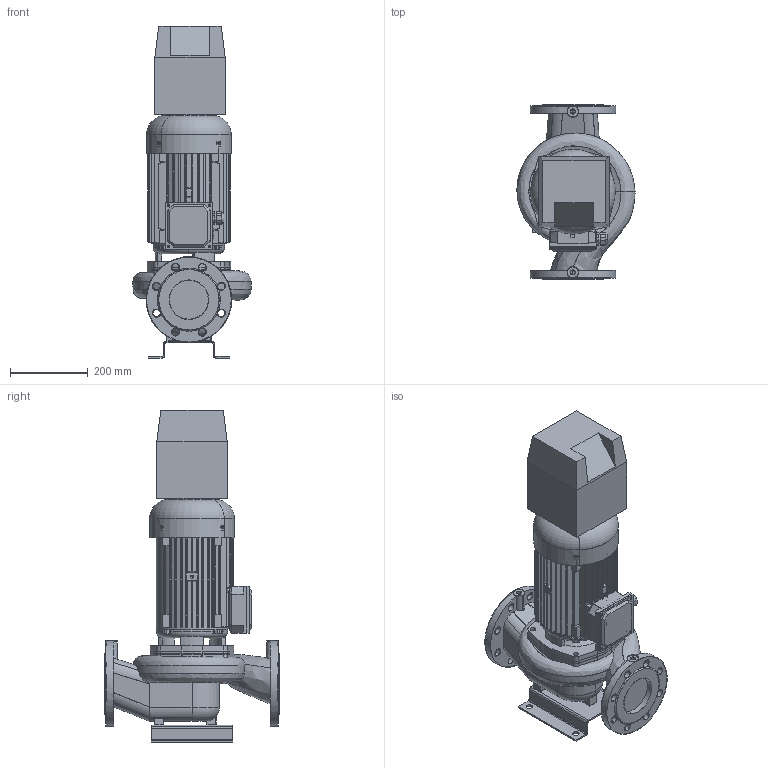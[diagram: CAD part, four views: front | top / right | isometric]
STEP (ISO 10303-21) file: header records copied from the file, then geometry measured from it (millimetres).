
FILE_DESCRIPTION(('STEP AP214'),'1');
FILE_NAME('export.stp','2018-08-08T12:08:02',(' '),(' '),'Spatial InterOp 3D',' ',' ');
FILE_SCHEMA(('AUTOMOTIVE_DESIGN { 1 0 10303 214 1 1 1 1 }'));
Length unit declared in the file: millimetre
Products named in the file (16): 440017; 440016; V_MKP112F19; 440015___; 440018; 440021; 480022; 480020; 480023; M25_Blind_Plug; M25_tiivisteholkk; W_AL11022NC400KP; V_TLL65AB80A1102; V_PPAL1102; V_JALKA35973; NC_Size1
Assembly tree (15 placements, depth 4):
  W_AL11022NC400KP
    V_MKP112F19
      440017
        440016
      440015___
      440018
      440021
      480022
      480020
      480023
      M25_Blind_Plug
      M25_tiivisteholkk
    V_TLL65AB80A1102
    V_PPAL1102
    V_JALKA35973
    NC_Size1
Bounding box: 304.08 x 450 x 854.2 mm (x, y, z)
Volume: 10404722 mm3; surface area: 2541985.1 mm2
Topology: 13 solids, 13 shells, 1885 faces, 5354 edges, 3512 vertices
Faces by surface type: cylinder 953, plane 647, cone 142, torus 97, bspline 38, offset 8
Entity records: 80816 total; most frequent: CARTESIAN_POINT 24628, ORIENTED_EDGE 10656, DIRECTION 10295, EDGE_CURVE 5328, AXIS2_PLACEMENT_3D 3934, VERTEX_POINT 3512, LINE 2427, VECTOR 2427
